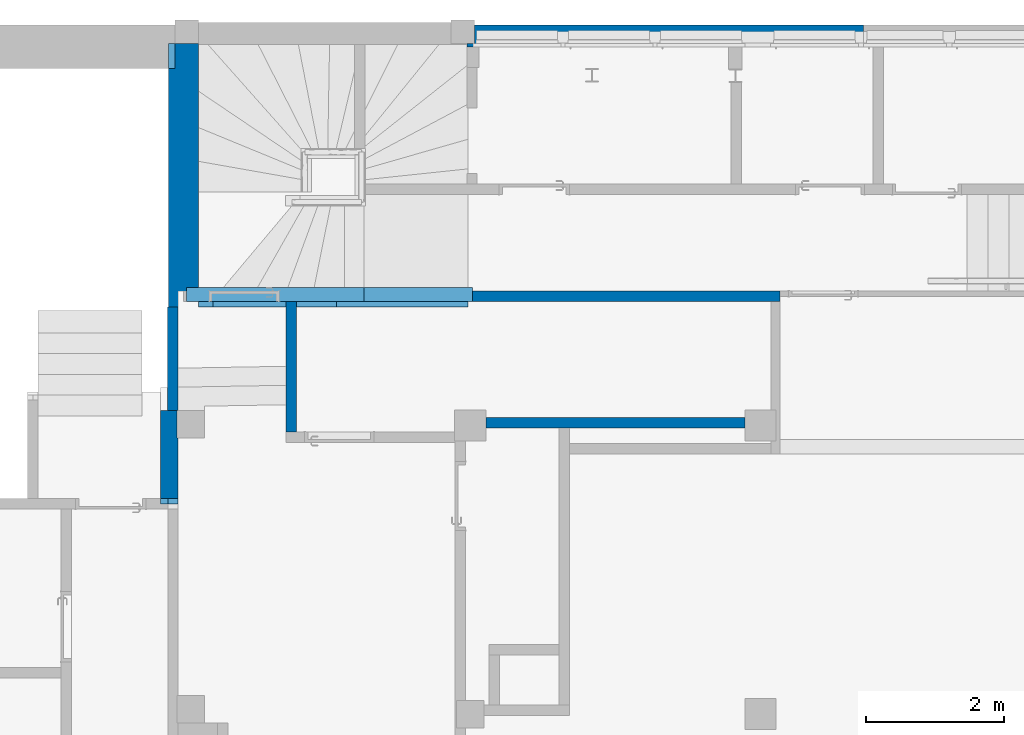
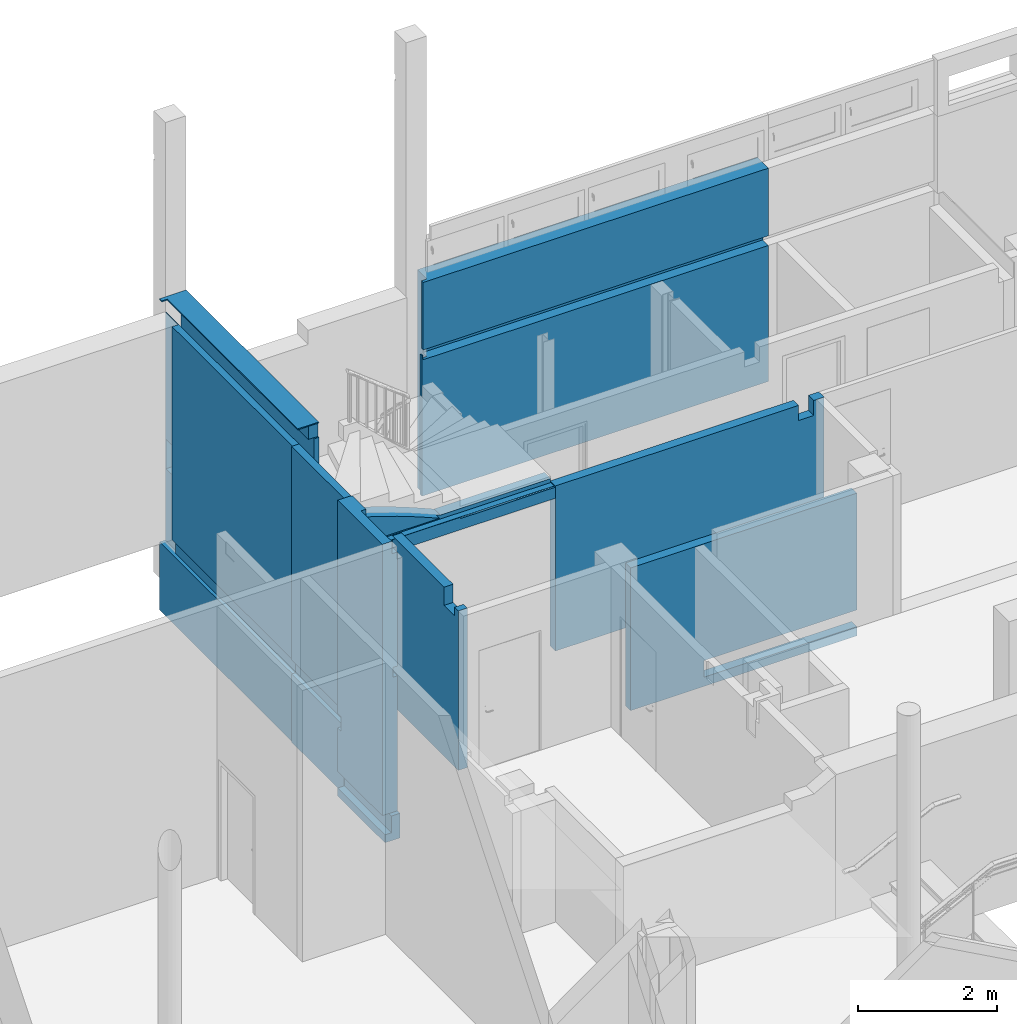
# One storey, part 27 of 39: 9 walls, 2 openings.
"""IFC4 building model written with IfcOpenShell, lengths in metres."""

from ifc_helpers import new_model, entity, si_unit, converted_unit, derived_unit, direction, frame, origin, place, context, subcontext, project, spatial, indexed_curve, outline, extrude, polygons, material, layer, layer_set, type_object, element, save


model = new_model("IFC4")

# Units and contexts
model_context = context("Model", 3, precision=1e-05, world=origin(), true_north=direction((6.12303176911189e-17, 1.0)))
body_context = subcontext(model_context, "Body", "Model", "MODEL_VIEW")
ifc_project = project(units=[si_unit("LENGTHUNIT", "METRE"), si_unit("AREAUNIT", "SQUARE_METRE"), si_unit("VOLUMEUNIT", "CUBIC_METRE"), converted_unit("PLANEANGLEUNIT", "DEGREE", entity("IfcRatioMeasure", 0.0174532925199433), si_unit("PLANEANGLEUNIT", "RADIAN"), dimensions=[0, 0, 0, 0, 0, 0, 0]), si_unit("MASSUNIT", "GRAM", prefix="KILO"), derived_unit("MASSDENSITYUNIT", [(si_unit("MASSUNIT", "GRAM", prefix="KILO"), 1), (si_unit("LENGTHUNIT", "METRE"), -3)]), derived_unit("MOMENTOFINERTIAUNIT", [(si_unit("LENGTHUNIT", "METRE"), 4)]), si_unit("TIMEUNIT", "SECOND"), si_unit("FREQUENCYUNIT", "HERTZ"), si_unit("THERMODYNAMICTEMPERATUREUNIT", "DEGREE_CELSIUS"), derived_unit("THERMALTRANSMITTANCEUNIT", [(si_unit("MASSUNIT", "GRAM", prefix="KILO"), 1), (si_unit("THERMODYNAMICTEMPERATUREUNIT", "KELVIN"), -1), (si_unit("TIMEUNIT", "SECOND"), -3)]), derived_unit("VOLUMETRICFLOWRATEUNIT", [(si_unit("LENGTHUNIT", "METRE"), 3), (si_unit("TIMEUNIT", "SECOND"), -1)]), si_unit("ELECTRICCURRENTUNIT", "AMPERE"), si_unit("ELECTRICVOLTAGEUNIT", "VOLT"), si_unit("POWERUNIT", "WATT"), si_unit("FORCEUNIT", "NEWTON", prefix="KILO"), si_unit("ILLUMINANCEUNIT", "LUX"), si_unit("LUMINOUSFLUXUNIT", "LUMEN"), si_unit("LUMINOUSINTENSITYUNIT", "CANDELA"), derived_unit("USERDEFINED", [(si_unit("MASSUNIT", "GRAM", prefix="KILO"), -1), (si_unit("LENGTHUNIT", "METRE"), -2), (si_unit("TIMEUNIT", "SECOND"), 3), (si_unit("LUMINOUSFLUXUNIT", "LUMEN"), 1)]), derived_unit("LINEARVELOCITYUNIT", [(si_unit("LENGTHUNIT", "METRE"), 1), (si_unit("TIMEUNIT", "SECOND"), -1)]), si_unit("PRESSUREUNIT", "PASCAL"), derived_unit("USERDEFINED", [(si_unit("LENGTHUNIT", "METRE"), -2), (si_unit("MASSUNIT", "GRAM", prefix="KILO"), 1), (si_unit("TIMEUNIT", "SECOND"), -2)]), derived_unit("LINEARFORCEUNIT", [(si_unit("MASSUNIT", "GRAM", prefix="KILO"), 1), (si_unit("LENGTHUNIT", "METRE"), 1), (si_unit("TIMEUNIT", "SECOND"), -2), (si_unit("LENGTHUNIT", "METRE"), -1)]), derived_unit("PLANARFORCEUNIT", [(si_unit("MASSUNIT", "GRAM", prefix="KILO"), 1), (si_unit("LENGTHUNIT", "METRE"), 1), (si_unit("TIMEUNIT", "SECOND"), -2), (si_unit("LENGTHUNIT", "METRE"), -2)])], contexts=[model_context])

# Site, building, storey
site_placement = place(None, origin())
site = spatial("IfcSite", under=ifc_project, at=site_placement, Name="Default", CompositionType="ELEMENT")
building_placement = place(site_placement, origin())
building = spatial("IfcBuilding", under=site, at=building_placement, Name="HOTEL CONSULAIRE BOULOGNE SUR MER", CompositionType="ELEMENT")
storey_placement = place(building_placement, frame((0.0, 0.0, -5.02343668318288)))
storey = spatial("IfcBuildingStorey", under=building, at=storey_placement, Name="SS3", CompositionType="ELEMENT", Elevation=-5.02343668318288)

# Wall, opening
ifc_material = material(Name="Mur par défaut", Category="Divers")
ifc_layer_1 = layer(ifc_material, 0.15, Name="Mur par défaut", Category="Divers")
ifc_layer_set_1 = layer_set([ifc_layer_1], Name="Mur de base:Générique - Int. 150 mm")
wall_type_1 = type_object("IfcWallType", Name="Mur de base:Générique - Int. 150 mm", PredefinedType="NOTDEFINED", material=ifc_layer_set_1)
wall_1_placement = place(storey_placement, frame((-5.53698856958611, -13.8983331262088, -0.43), z_axis=(0.0, 0.0, 1.0), x_axis=(0.0, -1.0, 0.0)))
wall_1 = element("IfcWall", 1, at=wall_1_placement, inside=storey, type_object=wall_type_1, material=ifc_layer_set_1, Name="Mur de base:Générique - Int. 150 mm", ObjectType="Mur de base:Générique - Int. 150 mm", PredefinedType="NOTDEFINED", context=body_context, shape_type="Tessellation", body=[
    polygons([(1.49693315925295, -0.0749999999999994, 5.18343668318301), (0.0, -0.0749999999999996, 5.18343668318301), (0.0, -0.0749999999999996, 1.44340592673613), (1.49693315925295, -0.0749999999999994, 1.44340592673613), (1.49693315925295, 0.075, 2.96999999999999), (1.49228990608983, 0.075, 2.96999999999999), (1.49228990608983, 0.075, 3.06399047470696), (0.0, 0.0749999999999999, 3.06399047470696), (0.0, 0.0749999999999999, 4.78343668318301), (1.49693315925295, 0.075, 4.78343668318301), (0.0, -0.0749999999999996, 0.0), (1.49693315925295, -0.0749999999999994, 0.0), (1.49693315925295, -0.0749999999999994, 1.19340592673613), (0.0, -0.0749999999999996, 1.19340592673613), (1.49693315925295, 0.075, 0.0), (0.0, 0.0749999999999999, 0.0), (0.0, 0.0749999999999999, 2.44999999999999), (1.49693315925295, 0.075, 2.44999999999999), (1.49693315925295, 0.0614804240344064, 0.0), (1.49693315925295, 0.0614804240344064, 2.44999999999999), (1.49693315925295, 0.0250000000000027, 2.44999999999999), (1.49693315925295, 0.0250000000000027, 2.96999999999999), (1.49693315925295, 0.0614804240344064, 2.96999999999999), (1.49693315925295, 0.0614804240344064, 4.78343668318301), (1.49693315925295, 0.0466510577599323, 4.78343668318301), (1.49693315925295, 0.0466510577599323, 5.18343668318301), (1.49693315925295, -0.00742340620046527, 1.44340592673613), (1.49693315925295, -0.00742340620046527, 1.19340592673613), (0.0, 0.0466510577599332, 5.18343668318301), (0.0, -0.00742340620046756, 1.19340592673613), (0.0, -0.00742340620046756, 1.44340592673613), (0.0, 0.0466510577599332, 4.78343668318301), (0.0, 0.00500000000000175, 3.06399047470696), (0.0, 0.00500000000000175, 2.96399047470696), (0.0, 0.0250000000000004, 2.96399047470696), (0.0, 0.0250000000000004, 2.44999999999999), (1.49228990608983, 0.0250000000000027, 2.96399047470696), (1.49228990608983, 0.0250000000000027, 2.96999999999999), (1.49228990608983, 0.00500000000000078, 2.96399047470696), (1.49228990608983, 0.00500000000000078, 3.06399047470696)], [[[2, 3, 4, 1]], [[14, 11, 12, 13]], [[31, 30, 28, 27]], [[7, 8, 9, 10, 5, 6]], [[18, 15, 16, 17]], [[35, 37, 38, 22, 21, 36]], [[40, 39, 34, 33]], [[26, 25, 32, 29]], [[12, 11, 16, 15, 19]], [[3, 31, 27, 4]], [[23, 22, 38, 6, 5]], [[7, 40, 33, 8]], [[13, 12, 19, 15, 18, 20, 21, 22, 23, 5, 10, 24, 25, 26, 1, 4, 27, 28]], [[2, 1, 26, 29]], [[30, 14, 13, 28]], [[20, 18, 17, 36, 21]], [[39, 37, 35, 34]], [[24, 10, 9, 32, 25]], [[31, 3, 2, 29, 32, 9, 8, 33, 34, 35, 36, 17, 16, 11, 14, 30]], [[37, 39, 40, 7, 6, 38]]], closed=True),
])
opening_1_placement = place(storey_placement, frame((-5.53698856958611, -13.8983331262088, -0.43), z_axis=(0.0, 0.0, 1.0), x_axis=(0.0, -1.0, 0.0)))
element("IfcOpeningElement", 2, at=opening_1_placement, cuts=wall_1, Name="Mur de base:Générique - Int. 150 mm:1", ObjectType="Opening", PredefinedType="OPENING", context=body_context, shape_type="SweptSolid", body=[
    extrude(outline(indexed_curve([(-0.746144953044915, -0.00999999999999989), (0.746144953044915, -0.00999999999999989), (0.746144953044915, 0.00999999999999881), (-0.746144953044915, 0.0100000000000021), (-0.746144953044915, -0.00999999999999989)], self_intersect=False)), frame((0.746144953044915, 0.0150000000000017, 2.96399047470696), z_axis=(0.0, 0.0, 1.0), x_axis=(-1.0, 0.0, 0.0)), (0.0, 0.0, 1.0), 0.1),
])

# Walls
wall_2_placement = place(storey_placement, frame((-3.81815893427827, -15.7082334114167, -0.43), z_axis=(0.0, 0.0, 1.0), x_axis=(0.0, 1.0, 0.0)))
element("IfcWall", 3, at=wall_2_placement, inside=storey, type_object=wall_type_1, material=ifc_layer_set_1, Name="Mur de base:Générique - Int. 150 mm", ObjectType="Mur de base:Générique - Int. 150 mm", PredefinedType="NOTDEFINED", context=body_context, shape_type="Tessellation", body=[
    polygons([(0.0, -0.0750000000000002, 0.0), (1.88932360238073, -0.0750000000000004, 0.0), (1.88932360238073, -0.0750000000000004, 2.675), (1.89211292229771, -0.0750000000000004, 2.675), (1.89211292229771, -0.0750000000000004, 2.96399047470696), (0.408694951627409, -0.0750000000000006, 2.96399047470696), (0.408694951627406, -0.0750000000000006, 2.64499999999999), (0.10869495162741, -0.0750000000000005, 2.64499999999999), (0.108694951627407, -0.0750000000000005, 2.79499999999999), (0.0, -0.0750000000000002, 2.79499999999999), (1.88932360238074, 0.0749999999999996, 0.0), (0.675836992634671, 0.0749999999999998, 0.0), (0.0, 0.0749999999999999, 0.0), (0.0, 0.0749999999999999, 2.79499999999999), (0.10869495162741, 0.0749999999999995, 2.79499999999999), (0.10869495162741, 0.0749999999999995, 2.64499999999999), (0.408694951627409, 0.0749999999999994, 2.64499999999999), (0.408694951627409, 0.0749999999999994, 2.96399047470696), (1.89211292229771, 0.0749999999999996, 2.96399047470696), (1.89211292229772, 0.0749999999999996, 2.675), (1.88932360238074, 0.0749999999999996, 2.675), (1.88932360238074, 0.0749999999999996, 0.51), (1.88932360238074, 0.0749999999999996, 0.26)], [[[1, 2, 3, 4, 5, 6, 7, 8, 9, 10]], [[23, 11, 12, 13, 14, 15, 16, 17, 18, 19, 20, 21, 22]], [[2, 1, 13, 12, 11]], [[4, 3, 21, 20]], [[6, 5, 19, 18]], [[15, 14, 10, 9]], [[16, 8, 7, 17]], [[13, 1, 10, 14]], [[17, 7, 6, 18]], [[2, 11, 23, 22, 21, 3]], [[5, 4, 20, 19]], [[15, 9, 8, 16]]], closed=True),
])
wall_3_placement = place(storey_placement, frame((3.25805497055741, -13.743909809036, -0.43), z_axis=(0.0, 0.0, 1.0), x_axis=(-1.0, 0.0, 0.0)))
element("IfcWall", 4, at=wall_3_placement, inside=storey, type_object=wall_type_1, material=ifc_layer_set_1, Name="Mur de base:Générique - Int. 150 mm", ObjectType="Mur de base:Générique - Int. 150 mm", PredefinedType="NOTDEFINED", context=body_context, shape_type="Tessellation", body=[
    polygons([(0.422617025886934, -0.0750000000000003, 2.89399047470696), (4.45247847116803, -0.0750000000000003, 2.89399047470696), (4.45247847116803, 0.0750000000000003, 2.89399047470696), (0.422617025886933, 0.0750000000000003, 2.89399047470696), (-4.05875887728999e-16, -0.0750000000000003, 0.0), (4.45247847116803, -0.0750000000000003, 0.0), (4.45247847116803, -0.0750000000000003, 2.675), (0.422617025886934, -0.0750000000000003, 2.62999999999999), (0.172617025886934, -0.0750000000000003, 2.62999999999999), (0.172617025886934, -0.0750000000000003, 2.89399047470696), (-4.05875887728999e-16, -0.0750000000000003, 2.89399047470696), (-4.05875887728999e-16, -0.0750000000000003, 0.51), (-4.05875887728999e-16, -0.0750000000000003, 0.22), (4.45247847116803, 0.0750000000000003, 0.0), (0.13, 0.0750000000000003, 0.0), (-4.09580863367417e-16, 0.0750000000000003, 0.0), (-4.09580863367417e-16, 0.0750000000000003, 2.89399047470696), (0.13, 0.0750000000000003, 2.89399047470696), (0.172617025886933, 0.0750000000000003, 2.89399047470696), (0.172617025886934, 0.0750000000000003, 2.62999999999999), (0.422617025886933, 0.0750000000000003, 2.62999999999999), (4.45247847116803, 0.0750000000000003, 2.675)], [[[3, 4, 1, 2]], [[20, 9, 8, 21]], [[18, 17, 11, 10, 19]], [[6, 7, 2, 1, 8, 9, 10, 11, 12, 13, 5]], [[14, 15, 16, 17, 18, 19, 20, 21, 4, 3, 22]], [[6, 5, 16, 15, 14]], [[7, 6, 14, 22, 3, 2]], [[19, 10, 9, 20]], [[17, 16, 5, 13, 12, 11]], [[21, 8, 1, 4]]], closed=True),
])
wall_4_placement = place(storey_placement, frame((-1.00382322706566, -15.574909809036, -0.43)))
element("IfcWall", 5, at=wall_4_placement, inside=storey, type_object=wall_type_1, material=ifc_layer_set_1, Name="Mur de base:Générique - Int. 150 mm", ObjectType="Mur de base:Générique - Int. 150 mm", PredefinedType="NOTDEFINED", context=body_context, shape_type="Tessellation", body=[
    polygons([(3.75, -0.0750000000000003, 0.0), (3.75, 0.0750000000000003, 0.0), (3.75, 0.0750000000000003, 0.162), (3.75, -0.0750000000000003, 0.162), (2.21675234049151e-16, -0.0750000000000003, 2.49999999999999), (2.21675234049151e-16, -0.0750000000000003, 0.0), (1.06166429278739, -0.0750000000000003, 0.0), (1.21166429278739, -0.0750000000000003, 0.0), (1.21166429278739, -0.0750000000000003, 0.162), (1.21166429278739, -0.0750000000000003, 0.452), (3.75, -0.0750000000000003, 0.452), (3.75, -0.0750000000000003, 2.49999999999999), (2.43332576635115e-16, 0.0750000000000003, 0.0), (-2.73842056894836e-17, 0.0750000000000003, 2.49999999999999), (3.75, 0.0750000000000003, 2.49999999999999), (3.75, 0.0750000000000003, 0.452), (1.21166429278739, 0.0750000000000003, 0.452), (1.21166429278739, 0.0750000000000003, 0.162)], [[[2, 3, 4, 1]], [[16, 15, 12, 11]], [[17, 10, 9, 18]], [[10, 11, 12, 5, 6, 7, 8, 1, 4, 9]], [[3, 2, 13, 14, 15, 16, 17, 18]], [[7, 6, 13, 2, 1, 8]], [[10, 17, 16, 11]], [[5, 12, 15, 14]], [[3, 18, 9, 4]], [[6, 5, 14, 13]]], closed=True),
])
ifc_layer_2 = layer(ifc_material, 0.32, Name="Mur par défaut", Category="Divers")
ifc_layer_set_2 = layer_set([ifc_layer_2], Name="Mur de base:Générique - Ext.320 mm")
wall_type_2 = type_object("IfcWallType", Name="Mur de base:Générique - Ext.320 mm", PredefinedType="NOTDEFINED", material=ifc_layer_set_2)
wall_5_placement = place(storey_placement, frame((-1.27887161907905, -9.97432416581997, 0.0)))
element("IfcWall", 6, at=wall_5_placement, inside=storey, type_object=wall_type_2, material=ifc_layer_set_2, Name="Mur de base:Générique - Ext.320 mm", ObjectType="Mur de base:Générique - Ext.320 mm", PredefinedType="NOTDEFINED", context=body_context, shape_type="Tessellation", body=[
    polygons([(5.74144811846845, -0.16, 3.81699999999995), (0.149448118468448, -0.16, 3.81699999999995), (0.107890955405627, -0.16, 3.81699999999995), (0.0194481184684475, -0.16, 3.81699999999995), (0.0194481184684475, -0.16, 2.63399047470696), (0.149448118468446, -0.16, 2.63399047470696), (5.6570483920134, -0.16, 2.63399047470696), (5.7370483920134, -0.16, 2.63399047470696), (5.74144811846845, -0.16, 2.63399047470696), (0.107890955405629, -0.110308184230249, 0.0800000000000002), (1.3928845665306e-16, -0.110308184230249, 0.0800000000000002), (1.3928845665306e-16, -0.110308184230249, 2.53999999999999), (0.0194481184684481, -0.110308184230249, 2.53999999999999), (0.0194481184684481, -0.110308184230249, 2.46399047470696), (0.107890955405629, -0.110308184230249, 2.46399047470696), (6.06782421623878e-16, -0.16, 0.0800000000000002), (0.180000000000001, -0.16, 0.0800000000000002), (3.7856183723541, -0.16, 0.0800000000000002), (3.98561837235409, -0.16, 0.0800000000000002), (5.74144811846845, -0.16, 0.0800000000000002), (5.74144811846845, -0.16, 2.46399047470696), (0.0194481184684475, -0.16, 2.46399047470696), (0.0194481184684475, -0.16, 2.53999999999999), (6.06782421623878e-16, -0.16, 2.53999999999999), (6.06782421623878e-16, -0.16, 2.01999999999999), (5.74144811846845, 0.16, 3.81699999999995), (5.74144811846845, 0.16, 0.0), (0.107890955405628, 0.16, 0.0), (0.107890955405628, 0.16, 3.81699999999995), (5.74144811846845, 0.0340000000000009, 0.0), (0.107890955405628, 0.0340000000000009, 0.0), (0.107890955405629, -0.110308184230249, 3.81699999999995), (0.0194481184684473, -0.110308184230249, 3.81699999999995), (5.74144811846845, 0.0, 2.63399047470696), (5.74144811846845, 0.0, 2.46399047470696), (5.74144811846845, 0.0340000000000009, 0.0800000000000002), (0.107890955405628, 0.0340000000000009, 0.0800000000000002), (0.107890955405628, 0.0, 2.46399047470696), (0.107890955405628, 0.0, 2.63399047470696), (0.107890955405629, -0.110308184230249, 2.63399047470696), (0.0194481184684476, -0.110308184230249, 2.63399047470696)], [[[3, 4, 5, 6, 7, 8, 9, 1, 2]], [[22, 23, 24, 25, 16, 17, 18, 19, 20, 21]], [[37, 31, 30, 36]], [[39, 38, 35, 34]], [[12, 13, 14, 15, 10, 11]], [[26, 27, 28, 29]], [[41, 33, 32, 40]], [[30, 31, 28, 27]], [[19, 18, 17, 16, 11, 10, 37, 36, 20]], [[34, 9, 8, 7, 6, 5, 41, 40, 39]], [[2, 1, 26, 29, 32, 33, 4, 3]], [[38, 15, 14, 22, 21, 35]], [[12, 24, 23, 13]], [[20, 36, 30, 27, 26, 1, 9, 34, 35, 21]], [[13, 23, 22, 14]], [[39, 40, 32, 29, 28, 31, 37, 10, 15, 38]], [[12, 11, 16, 25, 24]], [[33, 41, 5, 4]]], closed=True),
])
ifc_layer_3 = layer(ifc_material, 0.25, Name="Mur par défaut", Category="Divers")
ifc_layer_set_3 = layer_set([ifc_layer_3], Name="Mur de base:Générique - Int. 250 mm")
wall_type_3 = type_object("IfcWallType", Name="Mur de base:Générique - Int. 250 mm", PredefinedType="NOTDEFINED", material=ifc_layer_set_3)
wall_6_placement = place(storey_placement, frame((-5.58698856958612, -15.3952662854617, -0.43), z_axis=(0.0, 0.0, 1.0), x_axis=(0.0, -1.0, 0.0)))
element("IfcWall", 7, at=wall_6_placement, inside=storey, type_object=wall_type_3, material=ifc_layer_set_3, Name="Mur de base:Générique - Int. 250 mm", ObjectType="Mur de base:Générique - Int. 250 mm", PredefinedType="NOTDEFINED", context=body_context, shape_type="Tessellation", body=[
    polygons([(1.27931796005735, -0.125, 5.18343668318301), (0.0, -0.125, 5.18343668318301), (0.0, -0.125, 1.44340592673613), (0.0999358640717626, -0.125, 1.44340592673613), (0.0999358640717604, -0.125, 1.19340592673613), (0.0, -0.125, 1.19340592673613), (0.0, -0.125, 0.43), (1.27931796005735, -0.125, 0.43), (0.4, 0.124999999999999, 4.96343668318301), (0.551552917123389, 0.124999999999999, 4.96343668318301), (0.621552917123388, 0.124999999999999, 4.96343668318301), (1.27931796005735, 0.124999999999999, 4.96343668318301), (1.27931796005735, 0.124999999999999, 2.96499999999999), (0.621552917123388, 0.124999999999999, 2.96499999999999), (0.551552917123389, 0.124999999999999, 2.96499999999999), (0.4, 0.124999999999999, 2.96499999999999), (0.204272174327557, 0.0750000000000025, 2.44999999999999), (0.204272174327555, 0.0750000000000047, 2.64499999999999), (0.162179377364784, 0.111480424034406, 2.64499999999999), (0.162179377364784, 0.111480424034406, 2.44999999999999), (0.0, -0.125, 0.0), (1.35431796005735, -0.125, 0.0), (1.35431796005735, -0.125, 0.14), (0.0, -0.125, 0.14), (1.35431796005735, 0.124999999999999, 0.43), (1.35431796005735, 0.124999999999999, 0.0), (0.4, 0.124999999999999, 0.0), (0.4, 0.124999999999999, 2.79499999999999), (1.27931796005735, 0.124999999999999, 2.79499999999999), (1.27931796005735, 0.124999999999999, 0.43), (0.0, 0.111480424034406, 0.0), (0.4, 0.111480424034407, 0.0), (1.35431796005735, -0.0150000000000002, 0.0), (1.27931796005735, 0.0324804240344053, 5.18343668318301), (0.400003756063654, 0.032480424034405, 5.18343668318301), (0.4, 0.111480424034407, 5.18343668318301), (0.0123830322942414, 0.111480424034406, 5.18343668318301), (0.0123830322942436, 0.0966510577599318, 5.18343668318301), (0.0, 0.0966510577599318, 5.18343668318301), (0.0, 0.0966510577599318, 4.78343668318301), (0.0, 0.111480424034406, 4.78343668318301), (0.0, 0.111480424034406, 2.96999999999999), (0.0, 0.0750000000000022, 2.96999999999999), (0.0, 0.0750000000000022, 2.44999999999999), (0.0, 0.111480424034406, 2.44999999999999), (0.0, -0.0150000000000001, 0.14), (0.0, -0.0150000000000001, 0.43), (0.0, 0.0425765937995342, 1.19340592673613), (0.0, 0.0425765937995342, 1.44340592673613), (0.0999358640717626, 0.0425765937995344, 1.19340592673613), (0.0999358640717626, 0.0425765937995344, 1.44340592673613), (1.35431796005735, -0.0150000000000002, 0.43), (1.35431796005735, -0.0150000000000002, 0.14), (1.27931796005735, -0.0150000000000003, 0.43), (1.27931796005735, 0.055, 2.79499999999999), (1.27931796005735, 0.054999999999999, 2.96499999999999), (1.27931796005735, 0.0324804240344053, 4.96343668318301), (0.4, 0.111480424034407, 2.79499999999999), (0.204272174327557, 0.111480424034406, 2.64499999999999), (0.204272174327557, 0.111480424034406, 2.79499999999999), (0.0123830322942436, 0.0966510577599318, 4.78343668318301), (0.0123830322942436, 0.111480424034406, 4.78343668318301), (0.4, 0.111480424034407, 4.96343668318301), (0.4, 0.111480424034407, 2.96499999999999), (0.204272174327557, 0.111480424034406, 2.96499999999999), (0.162179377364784, 0.111480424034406, 2.96499999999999), (0.162179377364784, 0.111480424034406, 2.96999999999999), (0.400003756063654, 0.032480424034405, 4.96343668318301), (0.0353567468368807, 0.0550000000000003, 2.79499999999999), (0.204272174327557, 0.0750000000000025, 2.79499999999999), (0.0353567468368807, 0.0750000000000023, 2.79499999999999), (0.0353567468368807, 0.0550000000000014, 2.96499999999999), (0.0353567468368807, 0.0750000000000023, 2.96499999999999), (0.204272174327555, 0.0750000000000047, 2.96499999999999), (0.204272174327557, 0.0750000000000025, 2.96999999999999)], [[[2, 3, 4, 5, 6, 7, 8, 1]], [[24, 21, 22, 23]], [[51, 49, 48, 50]], [[54, 47, 46, 53, 52]], [[13, 14, 15, 16, 9, 10, 11, 12]], [[30, 25, 26, 27, 28, 29]], [[20, 19, 59, 60, 58, 32, 31, 45]], [[38, 61, 40, 39]], [[36, 63, 64, 65, 66, 67, 42, 41, 62, 37]], [[35, 34, 57, 68]], [[56, 55, 69, 72]], [[43, 75, 74, 73, 71, 70, 18, 17, 44]], [[17, 18, 19, 20]], [[74, 75, 67, 66]], [[33, 22, 21, 31, 32, 27, 26]], [[3, 49, 51, 4]], [[47, 54, 8, 7]], [[73, 74, 66, 65, 64, 16, 15, 14, 13, 56, 72]], [[67, 75, 43, 42]], [[1, 34, 35, 36, 37, 38, 39, 2]], [[50, 48, 6, 5]], [[54, 52, 25, 30]], [[62, 41, 40, 61]], [[11, 10, 9, 63, 68, 57, 12]], [[23, 53, 46, 24]], [[29, 28, 58, 60, 70, 71, 69, 55]], [[18, 59, 19]], [[20, 45, 44, 17]], [[44, 45, 31, 21, 24, 46, 47, 7, 6, 48, 49, 3, 2, 39, 40, 41, 42, 43]], [[51, 50, 5, 4]], [[27, 32, 58, 28]], [[64, 63, 9, 16]], [[38, 37, 62, 61]], [[18, 70, 60, 59]], [[33, 26, 25, 52, 53, 23, 22]], [[56, 13, 12, 57, 34, 1, 8, 54, 30, 29, 55]], [[73, 72, 69, 71]], [[35, 68, 63, 36]]], closed=True),
])
ifc_layer_4 = layer(ifc_material, 0.44, Name="Mur par défaut", Category="Divers")
ifc_layer_set_4 = layer_set([ifc_layer_4], Name="Mur de base:Générique - Int.440")
wall_type_4 = type_object("IfcWallType", Name="Mur de base:Générique - Int.440", PredefinedType="NOTDEFINED", material=ifc_layer_set_4)
wall_7_placement = place(storey_placement, frame((-5.3797731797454, -13.8983331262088, -0.43), z_axis=(0.0, 0.0, 1.0), x_axis=(0.0, 1.0, 0.0)))
element("IfcWall", 8, at=wall_7_placement, inside=storey, type_object=wall_type_4, material=ifc_layer_set_4, Name="Mur de base:Générique - Int.440", ObjectType="Mur de base:Générique - Int.440", PredefinedType="NOTDEFINED", context=body_context, shape_type="Tessellation", body=[
    polygons([(2.16573425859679e-15, -0.139435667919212, 5.18343668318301), (2.16573425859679e-15, -0.219999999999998, 5.18343668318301), (0.0274189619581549, -0.22, 5.18343668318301), (0.0274189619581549, -0.139435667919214, 5.18343668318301), (2.16573425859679e-15, -0.219999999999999, 5.45343668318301), (2.16573425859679e-15, 0.13, 5.45343668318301), (2.16573425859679e-15, 0.13, 5.43343668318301), (2.16573425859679e-15, -0.219999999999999, 5.43343668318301), (3.45200896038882, 0.22, 1.44340592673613), (0.0, 0.22, 1.44340592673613), (2.16573425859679e-15, 0.22, 5.18343668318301), (3.45200896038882, 0.22, 5.18343668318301), (3.74800896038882, 0.220000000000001, 5.43343668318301), (3.74800896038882, 0.220000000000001, 5.45343668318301), (3.81370077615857, 0.220000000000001, 5.45343668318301), (3.81370077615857, 0.220000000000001, 5.43343668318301), (2.16573425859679e-15, -0.219999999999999, 0.0), (3.81370077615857, -0.219999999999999, 0.0), (3.81370077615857, -0.219999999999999, 0.22), (0.229423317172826, -0.219999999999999, 0.22), (0.229423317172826, -0.219999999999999, 0.51), (3.81370077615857, -0.219999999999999, 0.51), (3.81370077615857, -0.219999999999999, 5.45343668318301), (0.0274189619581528, -0.219999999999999, 5.43343668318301), (2.16573425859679e-15, -0.219999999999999, 3.76748276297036), (3.81370077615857, 0.220000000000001, 0.0), (2.16573425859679e-15, 0.22, 0.0), (0.0, 0.22, 1.19340592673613), (3.81370077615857, 0.220000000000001, 1.19340592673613), (3.81370077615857, 0.124207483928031, 1.19340592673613), (3.81370077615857, 0.124207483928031, 5.18343668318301), (3.81370077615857, 0.110564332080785, 5.18343668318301), (3.81370077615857, 0.110564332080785, 4.78343668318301), (3.81370077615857, -0.139435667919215, 4.78343668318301), (3.81370077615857, -0.139435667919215, 5.18343668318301), (3.81370077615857, -0.0599999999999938, 5.18343668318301), (3.81370077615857, -0.0599999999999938, 5.43343668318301), (3.81370077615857, 1.21286670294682e-15, 0.51), (3.81370077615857, 1.29999573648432e-16, 0.22), (3.74800896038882, 0.130000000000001, 5.45343668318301), (2.16573425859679e-15, -0.139435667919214, 4.78343668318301), (2.16573425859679e-15, 0.110564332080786, 4.78343668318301), (2.16573425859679e-15, 0.110564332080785, 5.18343668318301), (2.16573425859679e-15, 0.164638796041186, 1.44340592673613), (2.16573425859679e-15, 0.164638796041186, 1.19340592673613), (2.16573425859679e-15, -0.127784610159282, 2.96999999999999), (2.16573425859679e-15, -0.127784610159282, 2.44999999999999), (2.16573425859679e-15, 0.132215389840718, 2.44999999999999), (2.16573425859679e-15, 0.132215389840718, 2.96999999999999), (3.45200896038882, 0.124207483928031, 5.18343668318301), (0.0274189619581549, -0.0599999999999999, 5.43343668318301), (3.74800896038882, 0.130000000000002, 5.43343668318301), (0.0274189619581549, -0.0600000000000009, 5.18343668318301), (3.45200896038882, 0.164638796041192, 1.19340592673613), (3.45200896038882, 0.124207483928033, 1.19340592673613), (3.45200896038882, 0.164638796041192, 1.44340592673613), (3.45200896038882, 0.124207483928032, 2.96999999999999), (3.45200896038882, 0.132215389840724, 2.96999999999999), (3.45200896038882, 0.132215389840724, 2.44999999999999), (3.45200896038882, 0.124207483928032, 2.44999999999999), (3.79800896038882, 0.124207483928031, 2.44999999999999), (3.79800896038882, 0.124207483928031, 2.96999999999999), (0.229423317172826, -1.82545750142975e-16, 0.22), (0.229423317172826, -1.82545750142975e-16, 0.51), (3.79800896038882, -0.127784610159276, 2.96999999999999), (3.79800896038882, -0.127784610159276, 2.44999999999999), (0.102789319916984, -0.127784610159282, 2.96999999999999), (0.102789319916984, 0.132215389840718, 2.96999999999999)], [[[2, 3, 4, 1]], [[5, 23, 15, 14, 40, 6]], [[50, 12, 11, 43, 32, 31]], [[54, 55, 30, 29, 28, 45]], [[41, 34, 33, 42]], [[20, 19, 39, 63]], [[66, 61, 60, 59, 48, 47]], [[8, 5, 6, 7]], [[2, 1, 41, 42, 43, 11, 10, 44, 45, 28, 27, 17, 25], [49, 46, 47, 48]], [[40, 14, 13, 52]], [[24, 51, 53, 4, 3]], [[65, 62, 61, 66]], [[12, 9, 10, 11]], [[15, 16, 13, 14]], [[29, 26, 27, 28]], [[51, 37, 36, 53]], [[40, 52, 7, 6]], [[56, 54, 45, 44]], [[4, 35, 34, 41, 1]], [[62, 57, 50, 31, 30, 55, 60, 61]], [[67, 65, 66, 47, 46]], [[3, 2, 25, 17, 18, 19, 20, 21, 22, 23, 5, 8, 24]], [[42, 33, 32, 43]], [[64, 63, 39, 38]], [[68, 49, 48, 59, 58]], [[18, 17, 27, 26]], [[52, 13, 16, 37, 51, 24, 8, 7]], [[9, 56, 44, 10]], [[53, 36, 35, 4]], [[38, 22, 21, 64]], [[67, 46, 49, 68, 58, 57, 62, 65]], [[34, 35, 36, 37, 16, 15, 23, 22, 38, 39, 19, 18, 26, 29, 30, 31, 32, 33]], [[12, 50, 57, 58, 59, 60, 55, 54, 56, 9]], [[64, 21, 20, 63]]], closed=True),
])

# Wall, opening
ifc_layer_5 = layer(ifc_material, 0.2, Name="Mur par défaut", Category="Divers")
ifc_layer_set_5 = layer_set([ifc_layer_5], Name="Mur de base:Générique - Int.200")
wall_type_5 = type_object("IfcWallType", Name="Mur de base:Générique - Int.200", PredefinedType="NOTDEFINED", material=ifc_layer_set_5)
wall_8_placement = place(storey_placement, frame((-1.19442350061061, -13.716120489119, 2.245), z_axis=(0.0, 0.0, 1.0), x_axis=(-1.0, 0.0, 0.0)))
wall_8 = element("IfcWall", 9, at=wall_8_placement, inside=storey, type_object=wall_type_5, material=ifc_layer_set_5, Name="Mur de base:Générique - Int.200", ObjectType="Mur de base:Générique - Int.200", PredefinedType="NOTDEFINED", context=body_context, shape_type="Tessellation", body=[
    polygons([(5.66908466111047e-17, -0.100000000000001, 0.0), (4.14034967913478, -0.100000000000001, 0.0), (4.14034967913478, -0.100000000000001, 0.285), (1.56949219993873, -0.100000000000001, 0.285), (1.56949219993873, -0.100000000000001, 0.195354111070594), (5.66908466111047e-17, -0.100000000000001, 0.195354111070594), (6.63141537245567e-18, 0.0999999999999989, 0.0), (1.41989806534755e-16, 0.0999999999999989, 0.195354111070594), (1.56949219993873, 0.0999999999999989, 0.195354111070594), (1.56949219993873, 0.0999999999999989, 0.285), (4.14034967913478, 0.0999999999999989, 0.285), (4.14034967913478, 0.0999999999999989, 0.0), (2.69873543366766, 0.0999999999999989, 0.0), (2.54873543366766, 0.0999999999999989, 0.0), (1.99285757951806e-19, -0.0472106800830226, 0.0)], [[[5, 6, 1, 2, 3, 4]], [[12, 13, 14, 7, 8, 9, 10, 11]], [[14, 13, 12, 2, 1, 15, 7]], [[3, 2, 12, 11]], [[4, 3, 11, 10]], [[6, 5, 9, 8]], [[1, 6, 8, 7, 15]], [[5, 4, 10, 9]]], closed=True),
])
opening_2_placement = place(wall_8_placement, origin())
element("IfcOpeningElement", 10, at=opening_2_placement, cuts=wall_8, Name="Mur de base:Générique - Int.200", ObjectType="Opening", PredefinedType="OPENING", context=body_context, shape_type="SweptSolid", body=[
    extrude(outline(indexed_curve([(-0.784746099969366, -0.044822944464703), (0.784746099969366, -0.044822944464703), (0.784746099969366, 0.044822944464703), (-0.784746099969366, 0.044822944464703), (-0.784746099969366, -0.044822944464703)], self_intersect=False)), frame((0.784746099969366, 0.0999999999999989, 0.240177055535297), z_axis=(0.0, -1.0, 0.0), x_axis=(-1.0, 0.0, 0.0)), (0.0, 0.0, 1.0), 0.2),
])

# Wall
ifc_layer_6 = layer(ifc_material, 0.28, Name="Mur par défaut", Category="Divers")
ifc_layer_set_6 = layer_set([ifc_layer_6], Name="Mur de base:Générique - Int. 280mm")
wall_type_6 = type_object("IfcWallType", Name="Mur de base:Générique - Int. 280mm", PredefinedType="NOTDEFINED", material=ifc_layer_set_6)
wall_9_placement = place(storey_placement, frame((-1.25942350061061, -13.756120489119, 2.53), z_axis=(0.0, 0.0, 1.0), x_axis=(-1.0, 0.0, 0.0)))
element("IfcWall", 11, at=wall_9_placement, inside=storey, type_object=wall_type_6, material=ifc_layer_set_6, Name="Mur de base:Générique - Int. 280mm", ObjectType="Mur de base:Générique - Int. 280mm", PredefinedType="NOTDEFINED", context=body_context, shape_type="Tessellation", body=[
    polygons([(3.90034967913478, 0.140000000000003, 0.0), (1.21966034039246e-16, 0.140000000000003, 0.0), (1.21966034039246e-16, 0.140000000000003, 0.0039904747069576), (3.90034967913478, 0.140000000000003, 0.0039904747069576), (2.59819427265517, -0.139999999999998, 0.383156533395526), (2.41588953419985, -0.139999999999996, 0.314897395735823), (2.2346482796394, -0.139999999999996, 0.243856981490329), (2.03274407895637, -0.139999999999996, 0.159410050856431), (1.83145754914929, -0.139999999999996, 0.0735012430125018), (5.98124411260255e-16, -0.139999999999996, 0.0735012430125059), (5.98124411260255e-16, -0.139999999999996, 0.0), (3.90034967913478, -0.139999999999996, 0.0), (3.90034967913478, -0.139999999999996, 0.807482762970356), (3.69321974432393, -0.139999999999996, 0.807482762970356), (3.69321974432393, -0.139999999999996, 0.68146042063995), (3.37285469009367, -0.139999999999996, 0.612693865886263), (3.05484596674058, -0.139999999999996, 0.533744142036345), (2.82556225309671, -0.139999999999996, 0.461355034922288), (2.23468287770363, 0.140000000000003, 0.243774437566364), (2.41588953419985, 0.140000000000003, 0.314897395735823), (2.59819427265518, 0.140000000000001, 0.383156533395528), (2.82556225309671, 0.140000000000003, 0.461355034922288), (3.05484596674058, 0.140000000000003, 0.533744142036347), (3.37285469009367, 0.140000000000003, 0.612693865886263), (3.69321974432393, 0.140000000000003, 0.681460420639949), (3.69321974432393, 0.140000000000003, 0.807482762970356), (3.90034967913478, 0.140000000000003, 0.807482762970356), (3.90034967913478, 0.140000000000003, 0.103990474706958), (1.90243293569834, 0.140000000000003, 0.103990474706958), (2.06833147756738, 0.140000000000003, 0.1744195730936), (3.69321974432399, 0.0422126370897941, 0.681460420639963), (3.90034967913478, 0.0394233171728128, 0.0039904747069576), (3.90034967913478, 0.0394233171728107, 0.103990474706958), (1.9024329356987, 0.0394233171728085, 0.103990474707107), (1.86693548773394, 0.0394233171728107, 0.088768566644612), (1.83145754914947, 0.0394233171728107, 0.0735012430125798), (2.16770758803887e-16, 0.0394233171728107, 0.0735012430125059), (3.69321974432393, 0.0422126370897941, 0.807482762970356), (2.16770758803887e-16, 0.0394233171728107, 0.0039904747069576)], [[[2, 3, 4, 1]], [[28, 29, 30, 19, 20, 21, 22, 23, 24, 25, 26, 27]], [[36, 35, 34, 33, 32, 39, 37]], [[13, 14, 15, 16, 17, 18, 5, 6, 7, 8, 9, 10, 11, 12]], [[5, 21, 20, 6]], [[20, 19, 7]], [[20, 7, 6]], [[17, 23, 22, 18]], [[22, 21, 5, 18]], [[16, 15, 31, 25, 24]], [[24, 23, 17, 16]], [[12, 11, 2, 1]], [[29, 28, 33, 34]], [[12, 1, 4, 32, 33, 28, 27, 13]], [[19, 30, 7]], [[8, 7, 30]], [[30, 34, 8]], [[34, 35, 9]], [[9, 35, 36]], [[34, 9, 8]], [[29, 34, 30]], [[10, 9, 36, 37]], [[14, 13, 27, 26, 38]], [[32, 4, 3, 39]], [[15, 14, 38, 26, 25, 31]], [[39, 3, 2, 11, 10, 37]]], closed=True),
])

save(model, "model.ifc")
